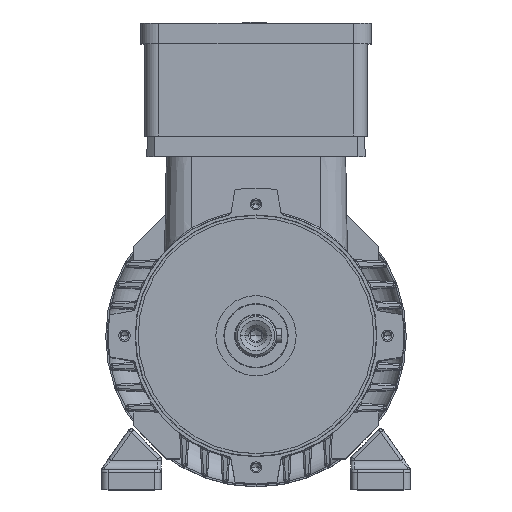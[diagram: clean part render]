
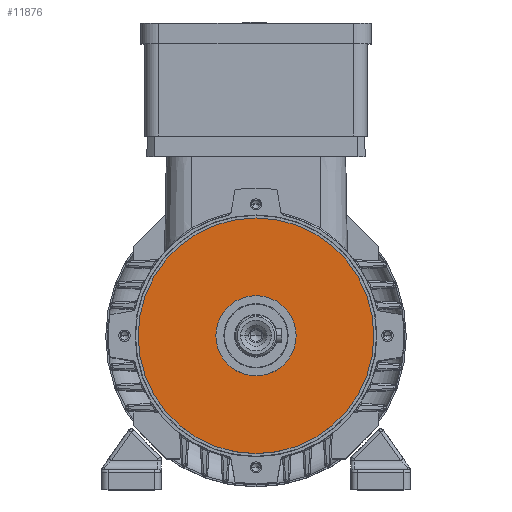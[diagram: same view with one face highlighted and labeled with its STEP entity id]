
A CAD part, top view. The second image highlights one B-rep face of the part: STEP entity #11876.
In plain terms, the highlighted planar face has unit normal (0, 0, 1).
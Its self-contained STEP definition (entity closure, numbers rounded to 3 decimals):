
#5925 = EDGE_LOOP ( 'NONE', ( #146409, #65101 ) ) ;
#6010 = CARTESIAN_POINT ( 'NONE',  ( 0., 37., 125. ) ) ;
#6545 = VERTEX_POINT ( 'NONE', #15642 ) ;
#6576 = CARTESIAN_POINT ( 'NONE',  ( 0., 0., 125. ) ) ;
#10152 = EDGE_CURVE ( 'NONE', #50393, #114780, #69034, .T. ) ;
#11876 = ADVANCED_FACE ( 'NONE', ( #79093, #23967 ), #110818, .F. ) ;
#15642 = CARTESIAN_POINT ( 'NONE',  ( -69., 0., 125. ) ) ;
#17437 = CIRCLE ( 'NONE', #64117, 23.5 ) ;
#20438 = DIRECTION ( 'NONE',  ( 0., 0., -1. ) ) ;
#21580 = AXIS2_PLACEMENT_3D ( 'NONE', #144041, #27521, #109725 ) ;
#22582 = EDGE_CURVE ( 'NONE', #116910, #6545, #121342, .T. ) ;
#23967 = FACE_OUTER_BOUND ( 'NONE', #5925, .T. ) ;
#27521 = DIRECTION ( 'NONE',  ( 0., 0., 1. ) ) ;
#30580 = AXIS2_PLACEMENT_3D ( 'NONE', #134005, #64770, #110455 ) ;
#40415 = DIRECTION ( 'NONE',  ( 0., 0., -1. ) ) ;
#41593 = DIRECTION ( 'NONE',  ( 1., 0., 0. ) ) ;
#43552 = DIRECTION ( 'NONE',  ( -1., 0., 0. ) ) ;
#50393 = VERTEX_POINT ( 'NONE', #126976 ) ;
#59690 = CIRCLE ( 'NONE', #85437, 69. ) ;
#64117 = AXIS2_PLACEMENT_3D ( 'NONE', #78590, #100703, #41593 ) ;
#64770 = DIRECTION ( 'NONE',  ( 0., 0., -1. ) ) ;
#65101 = ORIENTED_EDGE ( 'NONE', *, *, #101769, .F. ) ;
#69034 = CIRCLE ( 'NONE', #21580, 23.5 ) ;
#78590 = CARTESIAN_POINT ( 'NONE',  ( 0., 0., 125. ) ) ;
#79093 = FACE_BOUND ( 'NONE', #139106, .T. ) ;
#81846 = ORIENTED_EDGE ( 'NONE', *, *, #88952, .F. ) ;
#85437 = AXIS2_PLACEMENT_3D ( 'NONE', #6576, #20438, #43552 ) ;
#88952 = EDGE_CURVE ( 'NONE', #114780, #50393, #17437, .T. ) ;
#89212 = DIRECTION ( 'NONE',  ( -1., 0., 0. ) ) ;
#93065 = ORIENTED_EDGE ( 'NONE', *, *, #10152, .F. ) ;
#100703 = DIRECTION ( 'NONE',  ( 0., 0., 1. ) ) ;
#101769 = EDGE_CURVE ( 'NONE', #6545, #116910, #59690, .T. ) ;
#109725 = DIRECTION ( 'NONE',  ( 1., 0., 0. ) ) ;
#110455 = DIRECTION ( 'NONE',  ( -1., 0., 0. ) ) ;
#110818 = PLANE ( 'NONE',  #140974 ) ;
#114780 = VERTEX_POINT ( 'NONE', #150730 ) ;
#116910 = VERTEX_POINT ( 'NONE', #122061 ) ;
#121342 = CIRCLE ( 'NONE', #30580, 69. ) ;
#122061 = CARTESIAN_POINT ( 'NONE',  ( 69., 0., 125. ) ) ;
#126976 = CARTESIAN_POINT ( 'NONE',  ( -23.5, 0., 125. ) ) ;
#134005 = CARTESIAN_POINT ( 'NONE',  ( 0., 0., 125. ) ) ;
#139106 = EDGE_LOOP ( 'NONE', ( #81846, #93065 ) ) ;
#140974 = AXIS2_PLACEMENT_3D ( 'NONE', #6010, #40415, #89212 ) ;
#144041 = CARTESIAN_POINT ( 'NONE',  ( 0., 0., 125. ) ) ;
#146409 = ORIENTED_EDGE ( 'NONE', *, *, #22582, .F. ) ;
#150730 = CARTESIAN_POINT ( 'NONE',  ( 23.5, 0., 125. ) ) ;
